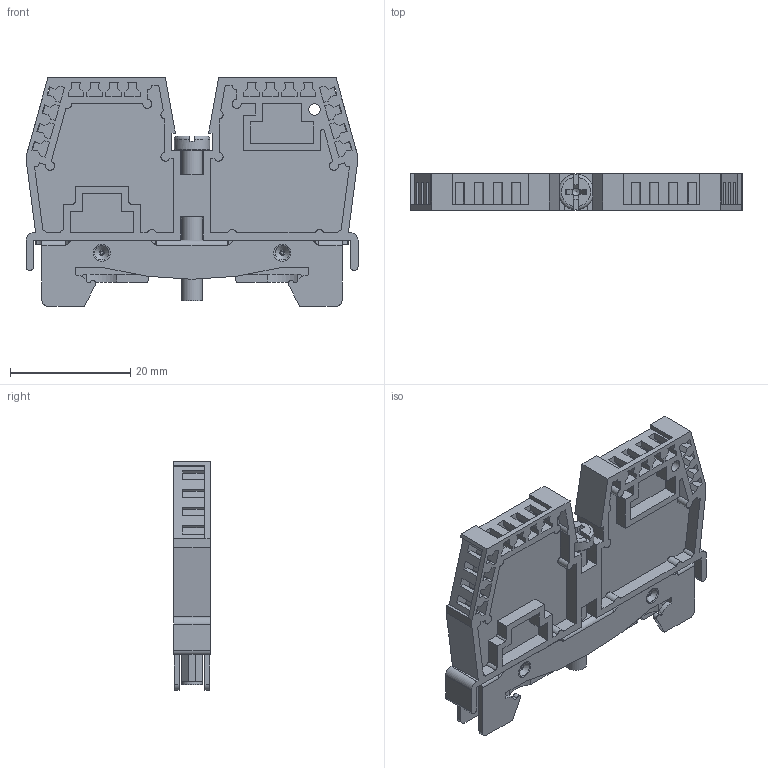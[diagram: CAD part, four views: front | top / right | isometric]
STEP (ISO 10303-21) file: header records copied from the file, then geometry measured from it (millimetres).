
FILE_DESCRIPTION(/* description */ ('Unknown'),/* implementation_level */ '2;1');
FILE_NAME(/* name */ 'Euro L35',/* time_stamp */ '2021-05-19T07:26:28+02:00',/* author */ ('Unknown'),/* organization */ ('Unknown'),/* preprocessor_version */ 'ST-DEVELOPER v16.7',/* originating_system */ 'Solid Edge',/* authorisation */ 'Unknown');
FILE_SCHEMA (('AUTOMOTIVE_DESIGN {1 0 10303 214 3 1 1}'));
Length unit declared in the file: millimetre
Products named in the file (1): Euro L35a
Bounding box: 55.3 x 6.1 x 38.05 mm (x, y, z)
Volume: 5409.2 mm3; surface area: 8501.7 mm2
Topology: 1 solids, 1 shells, 588 faces, 1731 edges, 1130 vertices
Faces by surface type: plane 449, cylinder 105, torus 21, cone 9, bspline 4
Full cylindrical faces by diameter (mm): 1.9 x1, 2.85 x4, 3.5 x2, 4.1 x1, 5.9 x1
Entity records: 23286 total; most frequent: CARTESIAN_POINT 3560, ORIENTED_EDGE 3348, DIRECTION 3048, EDGE_CURVE 1674, LINE 1382, VECTOR 1382, VERTEX_POINT 1113, AXIS2_PLACEMENT_3D 833
